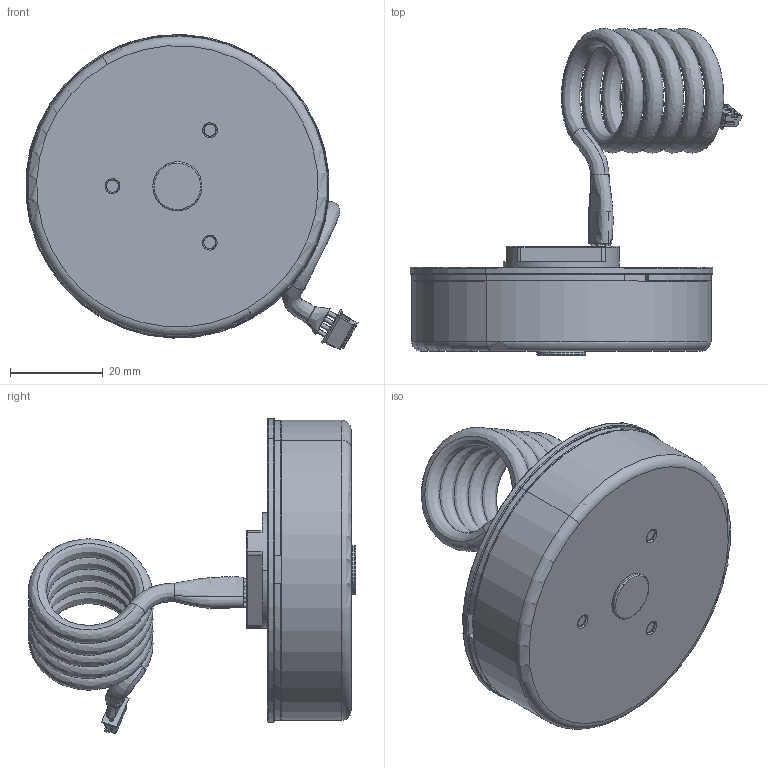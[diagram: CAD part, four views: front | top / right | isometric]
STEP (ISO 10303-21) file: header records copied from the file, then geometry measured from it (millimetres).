
FILE_DESCRIPTION (( 'STEP AP203' ), '1' );
FILE_NAME ('3333333333.STEP', '2023-06-14T10:14:27', ( 'Windows User' ), ( 'P R C' ), 'SwSTEP 2.0', 'SolidWorks 2018', '' );
FILE_SCHEMA (( 'CONFIG_CONTROL_DESIGN' ));
Products named in the file (1): 3333333333
Bounding box: 71.59 x 70.6 x 67.91 mm (x, y, z)
Surface area: 18157.2 mm2 (no closed solid volume)
Topology: 0 solids, 465 shells, 1846 faces, 6117 edges, 4897 vertices
Faces by surface type: plane 1220, bspline 379, cylinder 196, torus 51
Entity records: 100603 total; most frequent: CARTESIAN_POINT 61070, ORIENTED_EDGE 9488, EDGE_CURVE 6105, B_SPLINE_CURVE_WITH_KNOTS 5934, VERTEX_POINT 4897, DIRECTION 3124, EDGE_LOOP 2078, ADVANCED_FACE 1846
